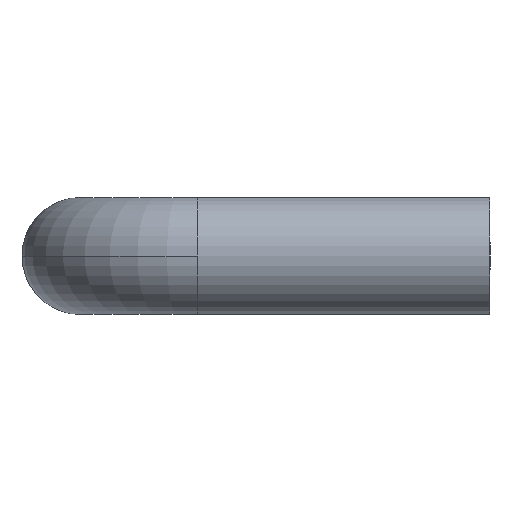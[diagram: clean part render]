
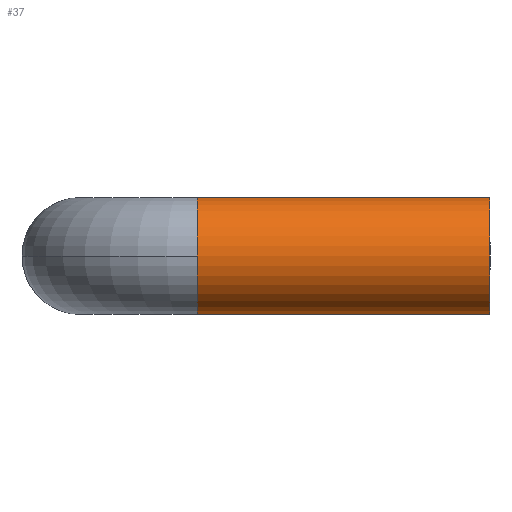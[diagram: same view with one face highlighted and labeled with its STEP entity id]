
A CAD part, left-side view. The second image highlights one B-rep face of the part: STEP entity #37.
In plain terms, the highlighted cylindrical face has radius 5 mm (diameter 10 mm), a partial arc.
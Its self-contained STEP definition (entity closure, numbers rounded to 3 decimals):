
#6 = CARTESIAN_POINT ( 'NONE',  ( -60., -10., 0. ) ) ;
#8 = DIRECTION ( 'NONE',  ( 0., 0., -1. ) ) ;
#9 = DIRECTION ( 'NONE',  ( 0., -1., 0. ) ) ;
#37 = ADVANCED_FACE ( 'NONE', ( #296 ), #298, .T. ) ;
#60 = AXIS2_PLACEMENT_3D ( 'NONE', #6, #9, #8 ) ;
#74 = AXIS2_PLACEMENT_3D ( 'NONE', #387, #388, #389 ) ;
#92 = AXIS2_PLACEMENT_3D ( 'NONE', #461, #462, #463 ) ;
#93 = AXIS2_PLACEMENT_3D ( 'NONE', #464, #465, #466 ) ;
#108 = EDGE_CURVE ( 'NONE', #200, #197, #317, .T. ) ;
#124 = EDGE_CURVE ( 'NONE', #210, #214, #339, .T. ) ;
#126 = EDGE_CURVE ( 'NONE', #200, #215, #342, .T. ) ;
#136 = EDGE_CURVE ( 'NONE', #197, #210, #356, .T. ) ;
#137 = EDGE_CURVE ( 'NONE', #215, #214, #357, .T. ) ;
#183 = EDGE_LOOP ( 'NONE', ( #252, #253, #254, #255, #256 ) ) ;
#197 = VERTEX_POINT ( 'NONE', #478 ) ;
#200 = VERTEX_POINT ( 'NONE', #489 ) ;
#210 = VERTEX_POINT ( 'NONE', #498 ) ;
#214 = VERTEX_POINT ( 'NONE', #502 ) ;
#215 = VERTEX_POINT ( 'NONE', #503 ) ;
#252 = ORIENTED_EDGE ( 'NONE', *, *, #124, .F. ) ;
#253 = ORIENTED_EDGE ( 'NONE', *, *, #136, .F. ) ;
#254 = ORIENTED_EDGE ( 'NONE', *, *, #108, .F. ) ;
#255 = ORIENTED_EDGE ( 'NONE', *, *, #126, .T. ) ;
#256 = ORIENTED_EDGE ( 'NONE', *, *, #137, .T. ) ;
#296 = FACE_OUTER_BOUND ( 'NONE', #183, .T. ) ;
#298 = CYLINDRICAL_SURFACE ( 'NONE', #60, 5. ) ;
#317 = CIRCLE ( 'NONE', #74, 5. ) ;
#339 = LINE ( 'NONE', #429, #341 ) ;
#341 = VECTOR ( 'NONE', #425, 1000. ) ;
#342 = LINE ( 'NONE', #433, #344 ) ;
#344 = VECTOR ( 'NONE', #438, 1000. ) ;
#356 = CIRCLE ( 'NONE', #92, 5. ) ;
#357 = CIRCLE ( 'NONE', #93, 5. ) ;
#387 = CARTESIAN_POINT ( 'NONE',  ( -60., -10., 0. ) ) ;
#388 = DIRECTION ( 'NONE',  ( 0., 1., 0. ) ) ;
#389 = DIRECTION ( 'NONE',  ( -1., 0., 0. ) ) ;
#425 = DIRECTION ( 'NONE',  ( 0., -1., 0. ) ) ;
#429 = CARTESIAN_POINT ( 'NONE',  ( -60., -10., 5. ) ) ;
#433 = CARTESIAN_POINT ( 'NONE',  ( -60., -10., -5. ) ) ;
#438 = DIRECTION ( 'NONE',  ( 0., -1., 0. ) ) ;
#461 = CARTESIAN_POINT ( 'NONE',  ( -60., -10., 0. ) ) ;
#462 = DIRECTION ( 'NONE',  ( 0., 1., 0. ) ) ;
#463 = DIRECTION ( 'NONE',  ( -1., 0., 0. ) ) ;
#464 = CARTESIAN_POINT ( 'NONE',  ( -60., -35., 0. ) ) ;
#465 = DIRECTION ( 'NONE',  ( 0., 1., 0. ) ) ;
#466 = DIRECTION ( 'NONE',  ( -1., 0., 0. ) ) ;
#478 = CARTESIAN_POINT ( 'NONE',  ( -65., -10., 0. ) ) ;
#489 = CARTESIAN_POINT ( 'NONE',  ( -60., -10., -5. ) ) ;
#498 = CARTESIAN_POINT ( 'NONE',  ( -60., -10., 5. ) ) ;
#502 = CARTESIAN_POINT ( 'NONE',  ( -60., -35., 5. ) ) ;
#503 = CARTESIAN_POINT ( 'NONE',  ( -60., -35., -5. ) ) ;
